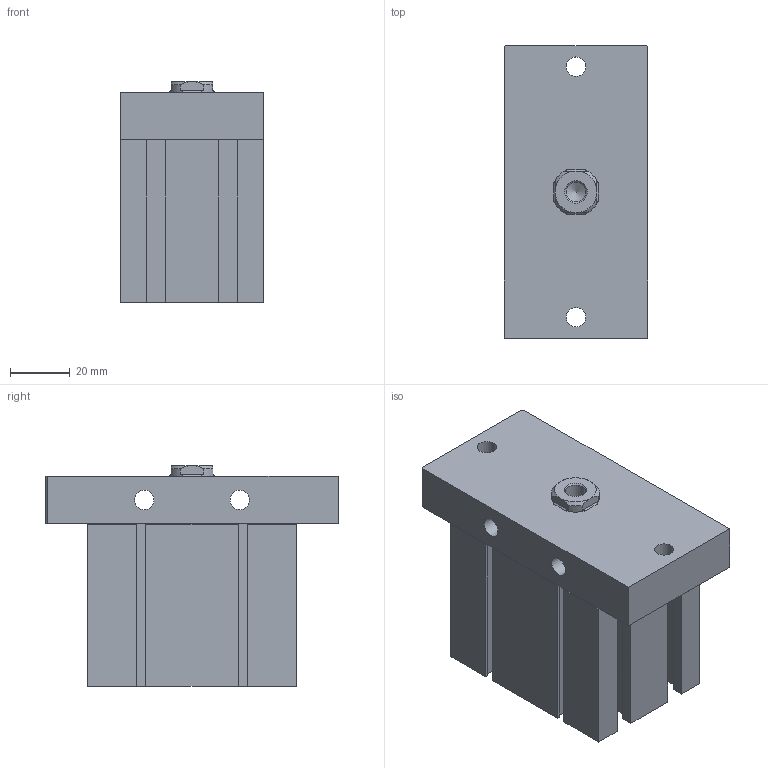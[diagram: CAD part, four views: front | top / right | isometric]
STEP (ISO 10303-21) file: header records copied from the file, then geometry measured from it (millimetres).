
FILE_DESCRIPTION((''),'2;1');
FILE_NAME('J:\3D電子目錄\氣缸\ND\ND\ND40-F\ND40x20-F.stp','2008-03-12T16:38:36',('66-2f-008'),(''),'Autodesk Inventor 11','Autodesk Inventor 11','');
FILE_SCHEMA(('AUTOMOTIVE_DESIGN { 1 0 10303 214 1 1 1 1 }'));
Length unit declared in the file: millimetre
Products named in the file (1): ND40-F
Bounding box: 48 x 98 x 74 mm (x, y, z)
Volume: 230121.5 mm3; surface area: 39706.8 mm2
Topology: 2 solids, 2 shells, 139 faces, 351 edges, 225 vertices
Faces by surface type: plane 99, bspline 16, cone 12, cylinder 11, torus 1
Full cylindrical faces by diameter (mm): 2.2 x2, 6.5 x2, 29 x1, 42 x1, 44.5 x1
Entity records: 4102 total; most frequent: CARTESIAN_POINT 908, ORIENTED_EDGE 634, DIRECTION 618, EDGE_CURVE 317, VECTOR 248, LINE 248, VERTEX_POINT 219, AXIS2_PLACEMENT_3D 185
